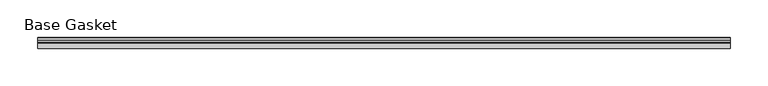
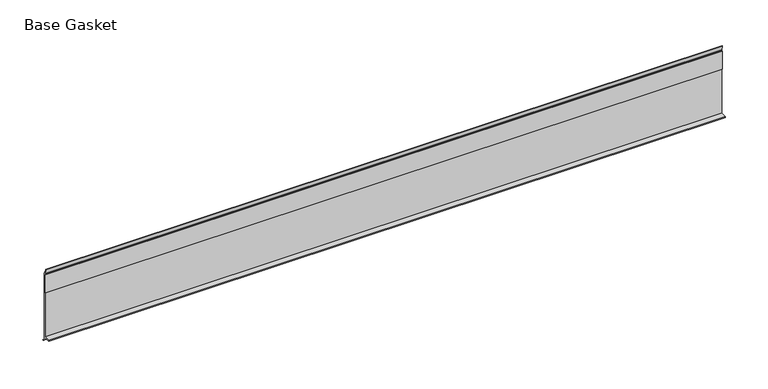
"""IFC4 building model written with IfcOpenShell, lengths in millimetres: furniture geometry, Gasket-Teknion-FHGB-AI_Healthcare-R2021 : Base Gasket."""

import ifcopenshell
import ifcopenshell.guid

model = None  # the IFC model being written
_history = None  # IfcOwnerHistory: only IFC2X3 demands one
_inside = {}  # id of a spatial element -> (the spatial element, [elements in it])
_under = {}  # id of a project, library or spatial element -> (it, [spatial elements below it])
_declared = {}  # id of a project -> (the project, [libraries it declares])
_typed = {}  # id of a type object -> (the type object, [elements of that type])
_made_of = {}  # id of a material, layer set ... -> (it, [elements and type objects made of it])


def new_model(schema):
    """Start an empty IFC model of exactly this schema.

    Asked for "IFC4X3", IfcOpenShell would pick the latest addendum, in which some entities
    have other attributes; the version numbers below select the first issue.
    IFC2X3 requires an IfcOwnerHistory on every rooted entity: one is made here for all.
    """
    global model, _history
    if schema == "IFC4X3":
        model = ifcopenshell.file(schema_version=(4, 3, 0, 0))
    else:
        model = ifcopenshell.file(schema=schema)
    _inside.clear()
    _under.clear()
    _declared.clear()
    _typed.clear()
    _made_of.clear()
    _history = None
    if model.schema == "IFC2X3":
        org = make("IfcOrganization", Name="unknown")
        user = make(
            "IfcPersonAndOrganization",
            ThePerson=make("IfcPerson", FamilyName="unknown"),
            TheOrganization=org,
        )
        app = make(
            "IfcApplication",
            ApplicationDeveloper=org,
            Version="unknown",
            ApplicationFullName="unknown",
            ApplicationIdentifier="unknown",
        )
        _history = make(
            "IfcOwnerHistory",
            OwningUser=user,
            OwningApplication=app,
            ChangeAction="ADDED",
            CreationDate=0,
        )
    return model


def make(cls, **values):
    """One entity of the class cls with the attributes given. An attribute that is None is left unset."""
    return model.create_entity(
        cls, **{name: value for name, value in values.items() if value is not None}
    )


def rooted(cls, **values):
    """An entity with a GlobalId (a new one), such as an element, a storey or a relation."""
    return make(cls, GlobalId=ifcopenshell.guid.new(), OwnerHistory=_history, **values)


def si_unit(unit_type, name, prefix=None):
    """IfcSIUnit, for example si_unit("LENGTHUNIT", "METRE", prefix="MILLI")."""
    return make("IfcSIUnit", UnitType=unit_type, Prefix=prefix, Name=name)


def assignment(units):
    """IfcUnitAssignment: the units of a project."""
    return None if units is None else make("IfcUnitAssignment", Units=units)


def point(xyz):
    """IfcCartesianPoint."""
    return None if xyz is None else make("IfcCartesianPoint", Coordinates=xyz)


def direction(xyz):
    """IfcDirection."""
    return None if xyz is None else make("IfcDirection", DirectionRatios=xyz)


def frame(location, z_axis=None, x_axis=None):
    """IfcAxis2Placement3D, a coordinate frame: its origin and axes. An axis left out is left unset."""
    return make(
        "IfcAxis2Placement3D",
        Location=point(location),
        Axis=direction(z_axis),
        RefDirection=direction(x_axis),
    )


def origin():
    """The frame at (0, 0, 0) with its axes left unset."""
    return frame((0.0, 0.0, 0.0))


def place(relative_to, where):
    """IfcLocalPlacement: puts the frame where relative to a parent placement (None: the world)."""
    return make(
        "IfcLocalPlacement", PlacementRelTo=relative_to, RelativePlacement=where
    )


def context(
    kind, dimensions, precision=None, world=None, true_north=None, identifier=None
):
    """IfcGeometricRepresentationContext, for example the 3D "Model" context."""
    return make(
        "IfcGeometricRepresentationContext",
        ContextIdentifier=identifier,
        ContextType=kind,
        CoordinateSpaceDimension=dimensions,
        Precision=precision,
        WorldCoordinateSystem=world,
        TrueNorth=true_north,
    )


def project(units=None, contexts=None):
    """IfcProject with its units and contexts."""
    return rooted(
        "IfcProject",
        Name="project",
        RepresentationContexts=contexts,
        UnitsInContext=assignment(units),
    )


def spatial(cls, under=None, at=None, **own):
    """A site, building, storey or space (cls), placed at a placement, below another one or the project."""
    s = rooted(cls, ObjectPlacement=at, **own)
    if under is not None:
        _under.setdefault(under.id(), (under, []))[1].append(s)
    return s


def polyline(points):
    """IfcPolyline through the points."""
    return make("IfcPolyline", Points=[point(p) for p in points])


def outline(outer, holes=None, kind="AREA"):
    """IfcArbitraryClosedProfileDef: a profile drawn as a closed curve; with holes, ...WithVoids."""
    if holes is None:
        return make("IfcArbitraryClosedProfileDef", ProfileType=kind, OuterCurve=outer)
    return make(
        "IfcArbitraryProfileDefWithVoids",
        ProfileType=kind,
        OuterCurve=outer,
        InnerCurves=holes,
    )


def extrude(swept, where, along, depth):
    """IfcExtrudedAreaSolid: the profile swept, set in the frame where, extruded along a direction by depth."""
    return make(
        "IfcExtrudedAreaSolid",
        SweptArea=swept,
        Position=where,
        ExtrudedDirection=direction(along),
        Depth=depth,
    )


def shape(context_of_items, identifier, shape_type, items):
    """IfcShapeRepresentation: the items that make up one representation, for example the "Body"."""
    return make(
        "IfcShapeRepresentation",
        ContextOfItems=context_of_items,
        RepresentationIdentifier=identifier,
        RepresentationType=shape_type,
        Items=items,
    )


def source(mapping_origin, context_of_items, identifier, shape_type, items):
    """IfcRepresentationMap: a shape defined once, which mapped items show again and again."""
    return make(
        "IfcRepresentationMap",
        MappingOrigin=mapping_origin,
        MappedRepresentation=shape(context_of_items, identifier, shape_type, items),
    )


def transform(
    local_origin,
    x_axis=None,
    y_axis=None,
    z_axis=None,
    scale=None,
    scale2=None,
    scale3=None,
    uniform=True,
):
    """IfcCartesianTransformationOperator3D, or its non-uniform kind. x_axis, y_axis, z_axis: its Axis1, 2, 3."""
    if uniform:
        return make(
            "IfcCartesianTransformationOperator3D",
            Axis1=direction(x_axis),
            Axis2=direction(y_axis),
            LocalOrigin=point(local_origin),
            Scale=scale,
            Axis3=direction(z_axis),
        )
    return make(
        "IfcCartesianTransformationOperator3DnonUniform",
        Axis1=direction(x_axis),
        Axis2=direction(y_axis),
        LocalOrigin=point(local_origin),
        Scale=scale,
        Axis3=direction(z_axis),
        Scale2=scale2,
        Scale3=scale3,
    )


def mapped(mapping_source, mapping_target):
    """IfcMappedItem: shows the shape of a source again, moved by a transform."""
    return make(
        "IfcMappedItem", MappingSource=mapping_source, MappingTarget=mapping_target
    )


def made_of(thing, what):
    """Note that an element or type object is made of a material, layer set ...; save() writes the relation."""
    if what is not None:
        _made_of.setdefault(what.id(), (what, []))[1].append(thing)
    return thing


def element(
    cls,
    number,
    at=None,
    inside=None,
    cuts=None,
    type_object=None,
    material=None,
    context=None,
    identifier="Body",
    shape_type=None,
    held_by="IfcProductDefinitionShape",
    body=None,
    shapes=None,
    **own,
):
    """One element of the class cls, such as IfcWall. Its Tag is "e" and its number.

    at: its placement. inside: the storey or other place that contains it. cuts: it is an
    opening in that element (IfcRelVoidsElement). A single representation is given by context,
    identifier, shape_type and body (its items); several are given by shapes. held_by: the class
    of the entity that holds the representations. save() writes the other relations.
    """
    e = rooted(cls, Tag="e%d" % number, ObjectPlacement=at, **own)
    if body is not None:
        shapes = [shape(context, identifier, shape_type, body)]
    if shapes is not None:
        e.Representation = make(held_by, Representations=shapes)
    if inside is not None:
        _inside.setdefault(inside.id(), (inside, []))[1].append(e)
    if cuts is not None:
        rooted(
            "IfcRelVoidsElement", RelatingBuildingElement=cuts, RelatedOpeningElement=e
        )
    if type_object is not None:
        _typed.setdefault(type_object.id(), (type_object, []))[1].append(e)
    return made_of(e, material)


def aggregate(whole, parts):
    """IfcRelAggregates: a whole, such as a stair, and the parts it consists of."""
    return rooted("IfcRelAggregates", RelatingObject=whole, RelatedObjects=parts)


def save(model, path):
    """Write the relations noted so far, then the file.

    IfcRelAggregates (storeys below a building ...), IfcRelContainedInSpatialStructure (elements
    in a storey), IfcRelDefinesByType, IfcRelAssociatesMaterial and IfcRelDeclares: one each for
    every whole, place, type object, material and project.
    """
    for whole, parts in _under.values():
        aggregate(whole, parts)
    for where, things in _inside.values():
        rooted(
            "IfcRelContainedInSpatialStructure",
            RelatedElements=things,
            RelatingStructure=where,
        )
    for kind, things in _typed.values():
        rooted("IfcRelDefinesByType", RelatedObjects=things, RelatingType=kind)
    for what, things in _made_of.values():
        rooted("IfcRelAssociatesMaterial", RelatedObjects=things, RelatingMaterial=what)
    for by, libraries in _declared.values():
        rooted("IfcRelDeclares", RelatingContext=by, RelatedDefinitions=libraries)
    model.write(path)


def base_gasket_bc602365(model_context):
    return source(origin(), model_context, "Body", "SweptSolid", [
        extrude(outline(polyline([(3.7283812, 98.4568417), (3.7283812, 4.3498477), (7.4222115, 0.6560174), (7.8482342, 0.0), (6.8281054, 0.3520979), (2.2043812, 4.3498477), (2.1334222, 6.3818476), (-6.2405171, 6.3818476), (-6.2405171, 7.9398773), (2.2043812, 7.9398773), (2.2043812, 71.4693447), (1.4106313, 71.4693447), (1.4106313, 96.8693477), (2.2043812, 96.8693477), (2.2043812, 98.4568417), (0.6755308, 104.4162708), (0.6755308, 105.2002997), (1.1891543, 104.587663), (3.7283812, 98.4568417)])), frame((-1527.8982117, 0.0, 0.0), z_axis=(1.0, 0.0, 0.0), x_axis=(0.0, 1.0, 0.0)), (0.0, 0.0, 1.0), 914.5704326),
    ])


if __name__ == "__main__":
    model = new_model("IFC4")
    model_context = context("Model", 3, world=origin())
    ifc_project = project(units=[si_unit("LENGTHUNIT", "METRE", prefix="MILLI")], contexts=[model_context])
    site = spatial("IfcSite", under=ifc_project)
    building = spatial("IfcBuilding", under=site)
    placement = place(None, origin())
    base_gasket_shape = base_gasket_bc602365(model_context)
    element("IfcFurniture", 1, ObjectType="Gasket-Teknion-FHGB-AI_Healthcare-R2021 : Base Gasket", at=placement, inside=building, context=model_context, shape_type="MappedRepresentation", body=[
        mapped(base_gasket_shape, transform((0.0, 0.0, 0.0), x_axis=(1.0, 0.0, 0.0), y_axis=(0.0, 1.0, 0.0), z_axis=(0.0, 0.0, 1.0))),
    ])
    save(model, "model.ifc")
